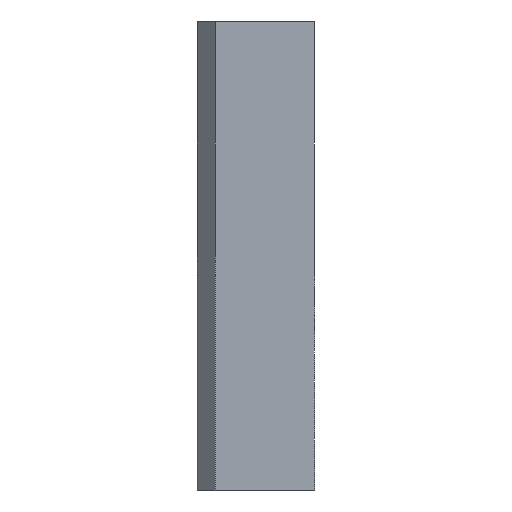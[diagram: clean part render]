
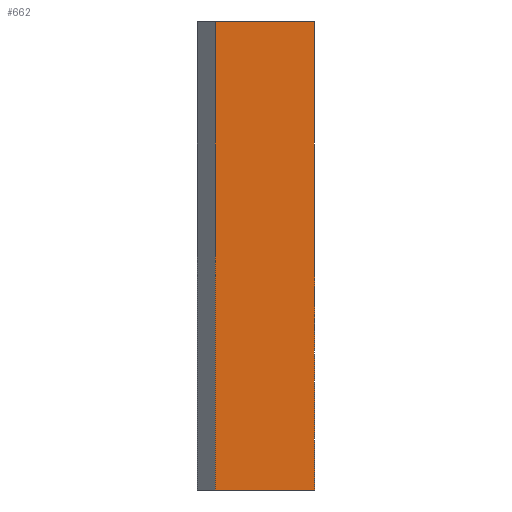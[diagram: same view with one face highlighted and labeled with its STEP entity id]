
A CAD part, front view. The second image highlights one B-rep face of the part: STEP entity #662.
In plain terms, the highlighted planar face has unit normal (0, -1, 0).
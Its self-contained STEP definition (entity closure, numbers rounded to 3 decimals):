
#286=CARTESIAN_POINT('Vertex',(20.,0.,-40.)) ;
#289=CARTESIAN_POINT('Line Origine',(11.5,0.,-40.)) ;
#293=CARTESIAN_POINT('Vertex',(3.,0.,-40.)) ;
#316=CARTESIAN_POINT('Line Origine',(3.,0.,0.)) ;
#320=CARTESIAN_POINT('Vertex',(3.,0.,40.)) ;
#340=CARTESIAN_POINT('Line Origine',(11.5,0.,40.)) ;
#344=CARTESIAN_POINT('Vertex',(20.,0.,40.)) ;
#571=CARTESIAN_POINT('Line Origine',(20.,0.,0.)) ;
#651=CARTESIAN_POINT('Axis2P3D Location',(3.,0.,40.)) ;
#290=DIRECTION('Vector Direction',(1.,0.,0.)) ;
#317=DIRECTION('Vector Direction',(0.,0.,-1.)) ;
#341=DIRECTION('Vector Direction',(1.,0.,0.)) ;
#572=DIRECTION('Vector Direction',(0.,0.,-1.)) ;
#652=DIRECTION('Axis2P3D Direction',(0.,1.,0.)) ;
#653=DIRECTION('Axis2P3D XDirection',(0.,-0.,1.)) ;
#654=AXIS2_PLACEMENT_3D('Plane Axis2P3D',#651,#652,#653) ;
#657=ORIENTED_EDGE('',*,*,#295,.T.) ;
#658=ORIENTED_EDGE('',*,*,#575,.F.) ;
#659=ORIENTED_EDGE('',*,*,#346,.F.) ;
#660=ORIENTED_EDGE('',*,*,#322,.T.) ;
#291=VECTOR('Line Direction',#290,1.) ;
#318=VECTOR('Line Direction',#317,1.) ;
#342=VECTOR('Line Direction',#341,1.) ;
#573=VECTOR('Line Direction',#572,1.) ;
#662=ADVANCED_FACE('A915-80X200',(#661),#655,.F.) ;
#295=EDGE_CURVE('',#294,#287,#292,.T.) ;
#322=EDGE_CURVE('',#321,#294,#319,.T.) ;
#346=EDGE_CURVE('',#321,#345,#343,.T.) ;
#575=EDGE_CURVE('',#345,#287,#574,.T.) ;
#656=EDGE_LOOP('',(#657,#658,#659,#660)) ;
#661=FACE_OUTER_BOUND('',#656,.T.) ;
#292=LINE('Line',#289,#291) ;
#319=LINE('Line',#316,#318) ;
#343=LINE('Line',#340,#342) ;
#574=LINE('Line',#571,#573) ;
#655=PLANE('Plane',#654) ;
#287=VERTEX_POINT('',#286) ;
#294=VERTEX_POINT('',#293) ;
#321=VERTEX_POINT('',#320) ;
#345=VERTEX_POINT('',#344) ;
